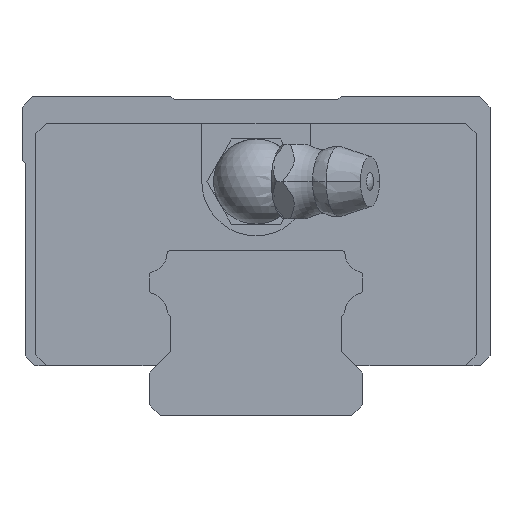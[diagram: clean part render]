
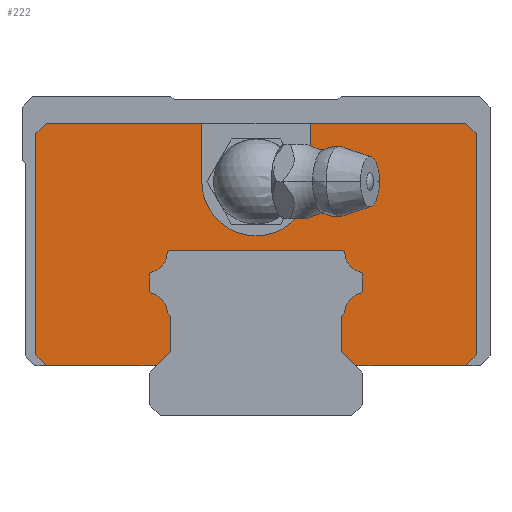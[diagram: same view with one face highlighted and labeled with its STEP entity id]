
A CAD part, front view. The second image highlights one B-rep face of the part: STEP entity #222.
In plain terms, the highlighted planar face has unit normal (0, -1, 0).
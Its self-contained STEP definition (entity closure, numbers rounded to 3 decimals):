
#222=ADVANCED_FACE('',(#484),#485,.T.);
#484=FACE_OUTER_BOUND('',#919,.T.);
#485=PLANE('',#920);
#919=EDGE_LOOP('',(#1683,#1684,#1685,#1686,#1687,#1688,#1689,#1690,#1691,#1692,#1693,#1694,#1695,#1696,#1697,#1698,#1699,#1700,#1701,#1702,#1703,#1704,#1705,#1706,#1707,#1708,#1709,#1710,#1711,#1712,#1713,#1714,#1715));
#920=AXIS2_PLACEMENT_3D('',#1716,#1717,#1718);
#1683=ORIENTED_EDGE('',*,*,#3141,.F.);
#1684=ORIENTED_EDGE('',*,*,#3142,.F.);
#1685=ORIENTED_EDGE('',*,*,#3143,.F.);
#1686=ORIENTED_EDGE('',*,*,#3118,.F.);
#1687=ORIENTED_EDGE('',*,*,#3144,.F.);
#1688=ORIENTED_EDGE('',*,*,#3145,.F.);
#1689=ORIENTED_EDGE('',*,*,#3146,.F.);
#1690=ORIENTED_EDGE('',*,*,#3132,.F.);
#1691=ORIENTED_EDGE('',*,*,#3147,.F.);
#1692=ORIENTED_EDGE('',*,*,#3148,.F.);
#1693=ORIENTED_EDGE('',*,*,#3149,.F.);
#1694=ORIENTED_EDGE('',*,*,#3073,.F.);
#1695=ORIENTED_EDGE('',*,*,#3070,.F.);
#1696=ORIENTED_EDGE('',*,*,#3093,.F.);
#1697=ORIENTED_EDGE('',*,*,#3150,.F.);
#1698=ORIENTED_EDGE('',*,*,#3151,.F.);
#1699=ORIENTED_EDGE('',*,*,#3152,.F.);
#1700=ORIENTED_EDGE('',*,*,#3153,.F.);
#1701=ORIENTED_EDGE('',*,*,#3154,.F.);
#1702=ORIENTED_EDGE('',*,*,#3155,.F.);
#1703=ORIENTED_EDGE('',*,*,#3156,.F.);
#1704=ORIENTED_EDGE('',*,*,#3157,.F.);
#1705=ORIENTED_EDGE('',*,*,#3158,.F.);
#1706=ORIENTED_EDGE('',*,*,#3159,.T.);
#1707=ORIENTED_EDGE('',*,*,#3160,.T.);
#1708=ORIENTED_EDGE('',*,*,#3030,.T.);
#1709=ORIENTED_EDGE('',*,*,#3161,.T.);
#1710=ORIENTED_EDGE('',*,*,#3162,.F.);
#1711=ORIENTED_EDGE('',*,*,#3124,.F.);
#1712=ORIENTED_EDGE('',*,*,#3163,.F.);
#1713=ORIENTED_EDGE('',*,*,#3164,.F.);
#1714=ORIENTED_EDGE('',*,*,#3103,.F.);
#1715=ORIENTED_EDGE('',*,*,#3165,.F.);
#1716=CARTESIAN_POINT('',(0.0,-10.1,22.0));
#1717=DIRECTION('',(0.0,-1.0,0.0));
#1718=DIRECTION('',(0.0,0.0,-1.0));
#3030=EDGE_CURVE('',#3607,#3611,#3613,.T.);
#3070=EDGE_CURVE('',#3678,#3680,#3681,.T.);
#3073=EDGE_CURVE('',#3680,#3685,#3686,.T.);
#3093=EDGE_CURVE('',#3717,#3678,#3719,.T.);
#3103=EDGE_CURVE('',#3732,#3734,#3735,.T.);
#3118=EDGE_CURVE('',#3758,#3760,#3761,.T.);
#3124=EDGE_CURVE('',#3770,#3766,#3772,.T.);
#3132=EDGE_CURVE('',#3782,#3784,#3785,.T.);
#3141=EDGE_CURVE('',#3797,#3798,#3799,.T.);
#3142=EDGE_CURVE('',#3800,#3797,#3801,.T.);
#3143=EDGE_CURVE('',#3760,#3800,#3802,.T.);
#3144=EDGE_CURVE('',#3803,#3758,#3804,.T.);
#3145=EDGE_CURVE('',#3805,#3803,#3806,.T.);
#3146=EDGE_CURVE('',#3784,#3805,#3807,.T.);
#3147=EDGE_CURVE('',#3808,#3782,#3809,.T.);
#3148=EDGE_CURVE('',#3810,#3808,#3811,.T.);
#3149=EDGE_CURVE('',#3685,#3810,#3812,.T.);
#3150=EDGE_CURVE('',#3813,#3717,#3814,.T.);
#3151=EDGE_CURVE('',#3815,#3813,#3816,.T.);
#3152=EDGE_CURVE('',#3817,#3815,#3818,.T.);
#3153=EDGE_CURVE('',#3819,#3817,#3820,.T.);
#3154=EDGE_CURVE('',#3821,#3819,#3822,.T.);
#3155=EDGE_CURVE('',#3823,#3821,#3824,.T.);
#3156=EDGE_CURVE('',#3825,#3823,#3826,.T.);
#3157=EDGE_CURVE('',#3827,#3825,#3828,.T.);
#3158=EDGE_CURVE('',#3829,#3827,#3830,.T.);
#3159=EDGE_CURVE('',#3829,#3831,#3832,.T.);
#3160=EDGE_CURVE('',#3831,#3607,#3833,.T.);
#3161=EDGE_CURVE('',#3611,#3834,#3835,.T.);
#3162=EDGE_CURVE('',#3766,#3834,#3836,.T.);
#3163=EDGE_CURVE('',#3837,#3770,#3838,.T.);
#3164=EDGE_CURVE('',#3734,#3837,#3839,.T.);
#3165=EDGE_CURVE('',#3798,#3732,#3840,.T.);
#3607=VERTEX_POINT('',#4501);
#3611=VERTEX_POINT('',#4506);
#3613=CIRCLE('',#4509,5.1);
#3678=VERTEX_POINT('',#4596);
#3680=VERTEX_POINT('',#4599);
#3681=LINE('',#4600,#4601);
#3685=VERTEX_POINT('',#4607);
#3686=CIRCLE('',#4608,0.3);
#3717=VERTEX_POINT('',#4648);
#3719=CIRCLE('',#4651,0.3);
#3732=VERTEX_POINT('',#4667);
#3734=VERTEX_POINT('',#4670);
#3735=LINE('',#4671,#4672);
#3758=VERTEX_POINT('',#4704);
#3760=VERTEX_POINT('',#4707);
#3761=CIRCLE('',#4708,0.3);
#3766=VERTEX_POINT('',#4714);
#3770=VERTEX_POINT('',#4720);
#3772=LINE('',#4723,#4724);
#3782=VERTEX_POINT('',#4734);
#3784=VERTEX_POINT('',#4737);
#3785=CIRCLE('',#4738,0.3);
#3797=VERTEX_POINT('',#4754);
#3798=VERTEX_POINT('',#4755);
#3799=LINE('',#4756,#4757);
#3800=VERTEX_POINT('',#4758);
#3801=LINE('',#4759,#4760);
#3802=CIRCLE('',#4761,1.9);
#3803=VERTEX_POINT('',#4762);
#3804=LINE('',#4763,#4764);
#3805=VERTEX_POINT('',#4765);
#3806=CIRCLE('',#4766,0.3);
#3807=CIRCLE('',#4767,1.9);
#3808=VERTEX_POINT('',#4768);
#3809=LINE('',#4769,#4770);
#3810=VERTEX_POINT('',#4771);
#3811=CIRCLE('',#4772,0.3);
#3812=CIRCLE('',#4773,1.9);
#3813=VERTEX_POINT('',#4774);
#3814=CIRCLE('',#4775,1.9);
#3815=VERTEX_POINT('',#4776);
#3816=LINE('',#4777,#4778);
#3817=VERTEX_POINT('',#4779);
#3818=LINE('',#4780,#4781);
#3819=VERTEX_POINT('',#4782);
#3820=LINE('',#4783,#4784);
#3821=VERTEX_POINT('',#4785);
#3822=LINE('',#4786,#4787);
#3823=VERTEX_POINT('',#4788);
#3824=LINE('',#4789,#4790);
#3825=VERTEX_POINT('',#4791);
#3826=LINE('',#4792,#4793);
#3827=VERTEX_POINT('',#4794);
#3828=LINE('',#4795,#4796);
#3829=VERTEX_POINT('',#4797);
#3830=LINE('',#4798,#4799);
#3831=VERTEX_POINT('',#4800);
#3832=LINE('',#4801,#4802);
#3833=CIRCLE('',#4803,5.1);
#3834=VERTEX_POINT('',#4804);
#3835=LINE('',#4805,#4806);
#3836=LINE('',#4807,#4808);
#3837=VERTEX_POINT('',#4809);
#3838=LINE('',#4810,#4811);
#3839=LINE('',#4812,#4813);
#3840=LINE('',#4814,#4815);
#4501=CARTESIAN_POINT('',(0.,-10.1,16.9));
#4506=CARTESIAN_POINT('',(-5.1,-10.1,22.0));
#4509=AXIS2_PLACEMENT_3D('',#5801,#5802,#5803);
#4596=CARTESIAN_POINT('',(10.0,-10.1,11.781));
#4599=CARTESIAN_POINT('',(10.0,-10.1,13.219));
#4600=CARTESIAN_POINT('',(10.0,-10.1,22.0));
#4601=VECTOR('',#5875,1000.0);
#4607=CARTESIAN_POINT('',(9.775,-10.1,13.51));
#4608=AXIS2_PLACEMENT_3D('',#5878,#5879,#5880);
#4648=CARTESIAN_POINT('',(9.775,-10.1,11.49));
#4651=AXIS2_PLACEMENT_3D('',#5918,#5919,#5920);
#4667=CARTESIAN_POINT('',(-9.3,-10.1,4.7));
#4670=CARTESIAN_POINT('',(-19.7,-10.1,4.7));
#4671=CARTESIAN_POINT('',(19.7,-10.1,4.7));
#4672=VECTOR('',#5940,1000.0);
#4704=CARTESIAN_POINT('',(-10.0,-10.1,11.781));
#4707=CARTESIAN_POINT('',(-9.775,-10.1,11.49));
#4708=AXIS2_PLACEMENT_3D('',#5963,#5964,#5965);
#4714=CARTESIAN_POINT('',(-19.7,-10.1,27.5));
#4720=CARTESIAN_POINT('',(-20.7,-10.1,26.5));
#4723=CARTESIAN_POINT('',(-20.7,-10.1,26.5));
#4724=VECTOR('',#5973,1000.0);
#4734=CARTESIAN_POINT('',(-8.055,-10.1,15.5));
#4737=CARTESIAN_POINT('',(-8.354,-10.1,15.22));
#4738=AXIS2_PLACEMENT_3D('',#5993,#5994,#5995);
#4754=CARTESIAN_POINT('',(-8.0,-10.1,9.3));
#4755=CARTESIAN_POINT('',(-8.0,-10.1,6.));
#4756=CARTESIAN_POINT('',(-8.0,-10.1,22.0));
#4757=VECTOR('',#6012,1000.0);
#4758=CARTESIAN_POINT('',(-8.349,-10.1,9.649));
#4759=CARTESIAN_POINT('',(-10.35,-10.1,11.65));
#4760=VECTOR('',#6013,1000.0);
#4761=AXIS2_PLACEMENT_3D('',#6014,#6015,#6016);
#4762=CARTESIAN_POINT('',(-10.0,-10.1,13.219));
#4763=CARTESIAN_POINT('',(-10.0,-10.1,22.0));
#4764=VECTOR('',#6017,1000.0);
#4765=CARTESIAN_POINT('',(-9.775,-10.1,13.51));
#4766=AXIS2_PLACEMENT_3D('',#6018,#6019,#6020);
#4767=AXIS2_PLACEMENT_3D('',#6021,#6022,#6023);
#4768=CARTESIAN_POINT('',(8.055,-10.1,15.5));
#4769=CARTESIAN_POINT('',(0.0,-10.1,15.5));
#4770=VECTOR('',#6024,1000.0);
#4771=CARTESIAN_POINT('',(8.354,-10.1,15.22));
#4772=AXIS2_PLACEMENT_3D('',#6025,#6026,#6027);
#4773=AXIS2_PLACEMENT_3D('',#6028,#6029,#6030);
#4774=CARTESIAN_POINT('',(8.349,-10.1,9.649));
#4775=AXIS2_PLACEMENT_3D('',#6031,#6032,#6033);
#4776=CARTESIAN_POINT('',(8.0,-10.1,9.3));
#4777=CARTESIAN_POINT('',(10.35,-10.1,11.65));
#4778=VECTOR('',#6034,1000.0);
#4779=CARTESIAN_POINT('',(8.0,-10.1,6.));
#4780=CARTESIAN_POINT('',(8.0,-10.1,22.0));
#4781=VECTOR('',#6035,1000.0);
#4782=CARTESIAN_POINT('',(9.3,-10.1,4.7));
#4783=CARTESIAN_POINT('',(-4.,-10.1,18.));
#4784=VECTOR('',#6036,1000.0);
#4785=CARTESIAN_POINT('',(19.7,-10.1,4.7));
#4786=CARTESIAN_POINT('',(19.7,-10.1,4.7));
#4787=VECTOR('',#6037,1000.0);
#4788=CARTESIAN_POINT('',(20.7,-10.1,5.7));
#4789=CARTESIAN_POINT('',(20.7,-10.1,5.7));
#4790=VECTOR('',#6038,1000.0);
#4791=CARTESIAN_POINT('',(20.7,-10.1,26.5));
#4792=CARTESIAN_POINT('',(20.7,-10.1,26.5));
#4793=VECTOR('',#6039,1000.0);
#4794=CARTESIAN_POINT('',(19.7,-10.1,27.5));
#4795=CARTESIAN_POINT('',(19.7,-10.1,27.5));
#4796=VECTOR('',#6040,1000.0);
#4797=CARTESIAN_POINT('',(5.1,-10.1,27.5));
#4798=CARTESIAN_POINT('',(-19.7,-10.1,27.5));
#4799=VECTOR('',#6041,1000.0);
#4800=CARTESIAN_POINT('',(5.1,-10.1,22.0));
#4801=CARTESIAN_POINT('',(5.1,-10.1,27.5));
#4802=VECTOR('',#6042,1000.0);
#4803=AXIS2_PLACEMENT_3D('',#6043,#6044,#6045);
#4804=CARTESIAN_POINT('',(-5.1,-10.1,27.5));
#4805=CARTESIAN_POINT('',(-5.1,-10.1,22.0));
#4806=VECTOR('',#6046,1000.0);
#4807=CARTESIAN_POINT('',(-19.7,-10.1,27.5));
#4808=VECTOR('',#6047,1000.0);
#4809=CARTESIAN_POINT('',(-20.7,-10.1,5.7));
#4810=CARTESIAN_POINT('',(-20.7,-10.1,5.7));
#4811=VECTOR('',#6048,1000.0);
#4812=CARTESIAN_POINT('',(-19.7,-10.1,4.7));
#4813=VECTOR('',#6049,1000.0);
#4814=CARTESIAN_POINT('',(4.,-10.1,18.));
#4815=VECTOR('',#6050,1000.0);
#5801=CARTESIAN_POINT('',(0.0,-10.1,22.0));
#5802=DIRECTION('',(0.0,1.0,0.0));
#5803=DIRECTION('',(-1.0,0.0,0.0));
#5875=DIRECTION('',(0.0,0.0,1.0));
#5878=CARTESIAN_POINT('',(9.7,-10.1,13.219));
#5879=DIRECTION('',(0.0,-1.0,0.0));
#5880=DIRECTION('',(0.0,0.0,-1.0));
#5918=CARTESIAN_POINT('',(9.7,-10.1,11.781));
#5919=DIRECTION('',(0.0,-1.0,0.0));
#5920=DIRECTION('',(0.0,0.0,-1.0));
#5940=DIRECTION('',(-1.0,0.0,0.0));
#5963=CARTESIAN_POINT('',(-9.7,-10.1,11.781));
#5964=DIRECTION('',(0.0,-1.0,0.0));
#5965=DIRECTION('',(0.0,0.0,-1.0));
#5973=DIRECTION('',(0.707,0.0,0.707));
#5993=CARTESIAN_POINT('',(-8.055,-10.1,15.2));
#5994=DIRECTION('',(0.0,-1.0,0.0));
#5995=DIRECTION('',(0.0,0.0,-1.0));
#6012=DIRECTION('',(0.0,0.0,-1.0));
#6013=DIRECTION('',(0.707,0.0,-0.707));
#6014=CARTESIAN_POINT('',(-10.249,-10.1,9.651));
#6015=DIRECTION('',(0.0,1.0,0.0));
#6016=DIRECTION('',(0.0,0.0,-1.0));
#6017=DIRECTION('',(0.0,0.0,-1.0));
#6018=CARTESIAN_POINT('',(-9.7,-10.1,13.219));
#6019=DIRECTION('',(0.0,-1.0,0.0));
#6020=DIRECTION('',(0.0,0.0,-1.0));
#6021=CARTESIAN_POINT('',(-10.249,-10.1,15.349));
#6022=DIRECTION('',(0.0,1.0,0.0));
#6023=DIRECTION('',(0.0,0.0,-1.0));
#6024=DIRECTION('',(-1.0,0.0,0.0));
#6025=CARTESIAN_POINT('',(8.055,-10.1,15.2));
#6026=DIRECTION('',(0.0,-1.0,0.0));
#6027=DIRECTION('',(0.0,0.0,-1.0));
#6028=CARTESIAN_POINT('',(10.249,-10.1,15.349));
#6029=DIRECTION('',(0.0,1.0,0.0));
#6030=DIRECTION('',(0.0,0.0,-1.0));
#6031=CARTESIAN_POINT('',(10.249,-10.1,9.651));
#6032=DIRECTION('',(0.0,1.0,0.0));
#6033=DIRECTION('',(0.0,0.0,-1.0));
#6034=DIRECTION('',(0.707,0.0,0.707));
#6035=DIRECTION('',(0.0,0.0,1.0));
#6036=DIRECTION('',(-0.707,0.0,0.707));
#6037=DIRECTION('',(-1.0,0.0,0.0));
#6038=DIRECTION('',(-0.707,0.0,-0.707));
#6039=DIRECTION('',(0.0,0.0,-1.0));
#6040=DIRECTION('',(0.707,0.0,-0.707));
#6041=DIRECTION('',(1.0,0.0,0.0));
#6042=DIRECTION('',(0.0,0.0,-1.0));
#6043=CARTESIAN_POINT('',(0.0,-10.1,22.0));
#6044=DIRECTION('',(0.0,1.0,0.0));
#6045=DIRECTION('',(-1.0,0.0,0.0));
#6046=DIRECTION('',(0.0,0.0,1.0));
#6047=DIRECTION('',(1.0,0.0,0.0));
#6048=DIRECTION('',(0.0,0.0,1.0));
#6049=DIRECTION('',(-0.707,0.0,0.707));
#6050=DIRECTION('',(-0.707,0.0,-0.707));
